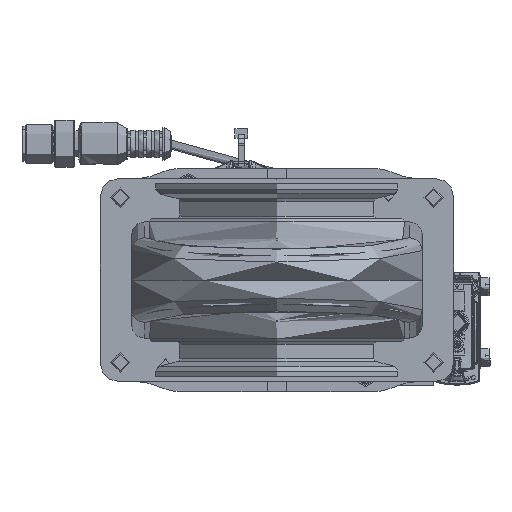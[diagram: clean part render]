
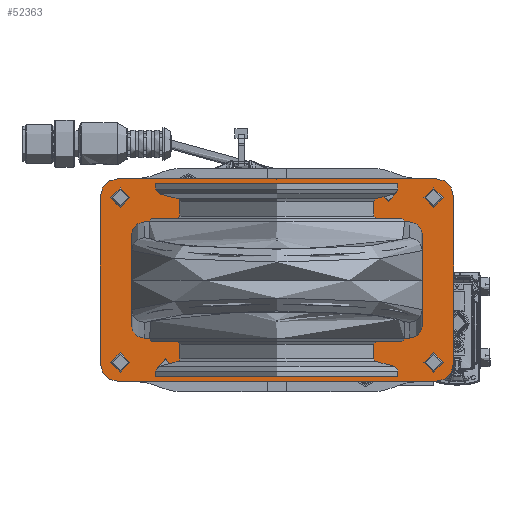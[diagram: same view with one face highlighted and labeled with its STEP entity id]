
A CAD part, front view. The second image highlights one B-rep face of the part: STEP entity #52363.
In plain terms, the highlighted planar face has unit normal (0, -1, 0).
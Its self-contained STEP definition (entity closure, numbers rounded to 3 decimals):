
#9810=LINE('',#137928,#15293);
#9823=LINE('',#137954,#15306);
#9843=LINE('',#138014,#15326);
#9848=LINE('',#138026,#15331);
#9852=LINE('',#138035,#15335);
#9857=LINE('',#138053,#15340);
#9860=LINE('',#138065,#15343);
#9865=LINE('',#138073,#15348);
#15293=VECTOR('',#115225,1.);
#15306=VECTOR('',#115240,1.);
#15326=VECTOR('',#115286,1.);
#15331=VECTOR('',#115297,1.);
#15335=VECTOR('',#115307,1.);
#15340=VECTOR('',#115328,1.);
#15343=VECTOR('',#115343,1.);
#15348=VECTOR('',#115350,1.);
#20820=CIRCLE('',#106985,2.);
#20821=CIRCLE('',#106988,2.);
#20822=CIRCLE('',#106991,2.);
#20823=CIRCLE('',#106994,2.);
#20824=CIRCLE('',#106996,6.);
#20826=CIRCLE('',#106999,6.);
#20827=CIRCLE('',#107002,6.);
#20828=CIRCLE('',#107004,6.);
#20836=CIRCLE('',#107016,2.5);
#20837=CIRCLE('',#107017,2.5);
#20838=CIRCLE('',#107018,2.5);
#20839=CIRCLE('',#107019,2.5);
#20840=CIRCLE('',#107020,2.6);
#20841=CIRCLE('',#107021,2.6);
#46126=PLANE('',#107022);
#52363=ADVANCED_FACE('',(#58282,#58283,#58284,#58285,#58286,#58287,#58288,
#58289),#46126,.T.);
#58282=FACE_BOUND('',#59423,.T.);
#58283=FACE_BOUND('',#59424,.T.);
#58284=FACE_BOUND('',#59425,.T.);
#58285=FACE_BOUND('',#59426,.T.);
#58286=FACE_BOUND('',#59427,.T.);
#58287=FACE_BOUND('',#59428,.T.);
#58288=FACE_BOUND('',#59429,.T.);
#58289=FACE_BOUND('',#59430,.T.);
#59423=EDGE_LOOP('',(#65546));
#59424=EDGE_LOOP('',(#65547));
#59425=EDGE_LOOP('',(#65548));
#59426=EDGE_LOOP('',(#65549));
#59427=EDGE_LOOP('',(#65550));
#59428=EDGE_LOOP('',(#65551));
#59429=EDGE_LOOP('',(#65552,#65553,#65554,#65555,#65556,#65557,#65558,#65559));
#59430=EDGE_LOOP('',(#65560,#65561,#65562,#65563,#65564,#65565,#65566,#65567));
#65546=ORIENTED_EDGE('',*,*,#95539,.F.);
#65547=ORIENTED_EDGE('',*,*,#95540,.F.);
#65548=ORIENTED_EDGE('',*,*,#95541,.F.);
#65549=ORIENTED_EDGE('',*,*,#95542,.F.);
#65550=ORIENTED_EDGE('',*,*,#95543,.F.);
#65551=ORIENTED_EDGE('',*,*,#95544,.F.);
#65552=ORIENTED_EDGE('',*,*,#95433,.T.);
#65553=ORIENTED_EDGE('',*,*,#95376,.T.);
#65554=ORIENTED_EDGE('',*,*,#95436,.T.);
#65555=ORIENTED_EDGE('',*,*,#95438,.T.);
#65556=ORIENTED_EDGE('',*,*,#95440,.T.);
#65557=ORIENTED_EDGE('',*,*,#95389,.T.);
#65558=ORIENTED_EDGE('',*,*,#95441,.T.);
#65559=ORIENTED_EDGE('',*,*,#95444,.T.);
#65560=ORIENTED_EDGE('',*,*,#95415,.T.);
#65561=ORIENTED_EDGE('',*,*,#95418,.T.);
#65562=ORIENTED_EDGE('',*,*,#95420,.T.);
#65563=ORIENTED_EDGE('',*,*,#95424,.T.);
#65564=ORIENTED_EDGE('',*,*,#95427,.T.);
#65565=ORIENTED_EDGE('',*,*,#95429,.T.);
#65566=ORIENTED_EDGE('',*,*,#95431,.T.);
#65567=ORIENTED_EDGE('',*,*,#95449,.T.);
#87873=VERTEX_POINT('',#137927);
#87874=VERTEX_POINT('',#137929);
#87885=VERTEX_POINT('',#137953);
#87886=VERTEX_POINT('',#137955);
#87911=VERTEX_POINT('',#138009);
#87912=VERTEX_POINT('',#138010);
#87913=VERTEX_POINT('',#138015);
#87914=VERTEX_POINT('',#138019);
#87916=VERTEX_POINT('',#138025);
#87918=VERTEX_POINT('',#138032);
#87919=VERTEX_POINT('',#138036);
#87920=VERTEX_POINT('',#138040);
#87921=VERTEX_POINT('',#138044);
#87923=VERTEX_POINT('',#138050);
#87924=VERTEX_POINT('',#138054);
#87925=VERTEX_POINT('',#138060);
#88017=VERTEX_POINT('',#138524);
#88018=VERTEX_POINT('',#138526);
#88019=VERTEX_POINT('',#138528);
#88020=VERTEX_POINT('',#138530);
#88021=VERTEX_POINT('',#138532);
#88022=VERTEX_POINT('',#138534);
#95376=EDGE_CURVE('',#87874,#87873,#9810,.T.);
#95389=EDGE_CURVE('',#87886,#87885,#9823,.T.);
#95415=EDGE_CURVE('',#87911,#87912,#20820,.T.);
#95418=EDGE_CURVE('',#87912,#87913,#9843,.T.);
#95420=EDGE_CURVE('',#87913,#87914,#20821,.T.);
#95424=EDGE_CURVE('',#87914,#87916,#9848,.T.);
#95427=EDGE_CURVE('',#87916,#87918,#20822,.T.);
#95429=EDGE_CURVE('',#87918,#87919,#9852,.T.);
#95431=EDGE_CURVE('',#87919,#87920,#20823,.T.);
#95433=EDGE_CURVE('',#87921,#87874,#20824,.T.);
#95436=EDGE_CURVE('',#87873,#87923,#20826,.T.);
#95438=EDGE_CURVE('',#87923,#87924,#9857,.T.);
#95440=EDGE_CURVE('',#87924,#87886,#20827,.T.);
#95441=EDGE_CURVE('',#87885,#87925,#20828,.T.);
#95444=EDGE_CURVE('',#87925,#87921,#9860,.T.);
#95449=EDGE_CURVE('',#87920,#87911,#9865,.T.);
#95539=EDGE_CURVE('',#88017,#88017,#20836,.T.);
#95540=EDGE_CURVE('',#88018,#88018,#20837,.T.);
#95541=EDGE_CURVE('',#88019,#88019,#20838,.T.);
#95542=EDGE_CURVE('',#88020,#88020,#20839,.T.);
#95543=EDGE_CURVE('',#88021,#88021,#20840,.T.);
#95544=EDGE_CURVE('',#88022,#88022,#20841,.T.);
#106985=AXIS2_PLACEMENT_3D('',#138008,#115280,#115281);
#106988=AXIS2_PLACEMENT_3D('',#138018,#115290,#115291);
#106991=AXIS2_PLACEMENT_3D('',#138031,#115302,#115303);
#106994=AXIS2_PLACEMENT_3D('',#138039,#115311,#115312);
#106996=AXIS2_PLACEMENT_3D('',#138043,#115316,#115317);
#106999=AXIS2_PLACEMENT_3D('',#138049,#115323,#115324);
#107002=AXIS2_PLACEMENT_3D('',#138057,#115332,#115333);
#107004=AXIS2_PLACEMENT_3D('',#138059,#115336,#115337);
#107016=AXIS2_PLACEMENT_3D('',#138523,#115372,#115373);
#107017=AXIS2_PLACEMENT_3D('',#138525,#115374,#115375);
#107018=AXIS2_PLACEMENT_3D('',#138527,#115376,#115377);
#107019=AXIS2_PLACEMENT_3D('',#138529,#115378,#115379);
#107020=AXIS2_PLACEMENT_3D('',#138531,#115380,#115381);
#107021=AXIS2_PLACEMENT_3D('',#138533,#115382,#115383);
#107022=AXIS2_PLACEMENT_3D('',#138535,#115384,#115385);
#115225=DIRECTION('',(-1.,0.,0.));
#115240=DIRECTION('',(1.,0.,0.));
#115280=DIRECTION('',(0.,1.,0.));
#115281=DIRECTION('',(-1.,0.,0.));
#115286=DIRECTION('',(0.,0.,1.));
#115290=DIRECTION('',(0.,1.,0.));
#115291=DIRECTION('',(-1.,0.,0.));
#115297=DIRECTION('',(1.,0.,0.));
#115302=DIRECTION('',(0.,1.,0.));
#115303=DIRECTION('',(1.,0.,0.));
#115307=DIRECTION('',(0.,0.,-1.));
#115311=DIRECTION('',(0.,1.,0.));
#115312=DIRECTION('',(1.,0.,0.));
#115316=DIRECTION('',(0.,-1.,0.));
#115317=DIRECTION('',(1.,0.,0.));
#115323=DIRECTION('',(0.,-1.,0.));
#115324=DIRECTION('',(-1.,0.,0.));
#115328=DIRECTION('',(0.,0.,-1.));
#115332=DIRECTION('',(0.,-1.,0.));
#115333=DIRECTION('',(-1.,0.,0.));
#115336=DIRECTION('',(0.,-1.,0.));
#115337=DIRECTION('',(1.,0.,0.));
#115343=DIRECTION('',(0.,0.,1.));
#115350=DIRECTION('',(-1.,0.,0.));
#115372=DIRECTION('',(0.,-1.,0.));
#115373=DIRECTION('',(0.,0.,-1.));
#115374=DIRECTION('',(0.,-1.,0.));
#115375=DIRECTION('',(0.,0.,-1.));
#115376=DIRECTION('',(0.,-1.,0.));
#115377=DIRECTION('',(0.,0.,-1.));
#115378=DIRECTION('',(0.,-1.,0.));
#115379=DIRECTION('',(0.,0.,-1.));
#115380=DIRECTION('',(0.,-1.,0.));
#115381=DIRECTION('',(0.,0.,-1.));
#115382=DIRECTION('',(0.,-1.,0.));
#115383=DIRECTION('',(0.,0.,-1.));
#115384=DIRECTION('',(0.,-1.,0.));
#115385=DIRECTION('',(-1.,0.,0.));
#137927=CARTESIAN_POINT('',(-48.75,125.,31.5));
#137928=CARTESIAN_POINT('',(48.75,125.,31.5));
#137929=CARTESIAN_POINT('',(48.75,125.,31.5));
#137953=CARTESIAN_POINT('',(48.75,125.,-31.5));
#137954=CARTESIAN_POINT('',(-48.75,125.,-31.5));
#137955=CARTESIAN_POINT('',(-48.75,125.,-31.5));
#138008=CARTESIAN_POINT('',(-41.5,125.,-14.5));
#138009=CARTESIAN_POINT('',(-41.5,125.,-16.5));
#138010=CARTESIAN_POINT('',(-43.5,125.,-14.5));
#138014=CARTESIAN_POINT('',(-43.5,125.,-14.5));
#138015=CARTESIAN_POINT('',(-43.5,125.,14.5));
#138018=CARTESIAN_POINT('',(-41.5,125.,14.5));
#138019=CARTESIAN_POINT('',(-41.5,125.,16.5));
#138025=CARTESIAN_POINT('',(41.5,125.,16.5));
#138026=CARTESIAN_POINT('',(-41.5,125.,16.5));
#138031=CARTESIAN_POINT('',(41.5,125.,14.5));
#138032=CARTESIAN_POINT('',(43.5,125.,14.5));
#138035=CARTESIAN_POINT('',(43.5,125.,14.5));
#138036=CARTESIAN_POINT('',(43.5,125.,-14.5));
#138039=CARTESIAN_POINT('',(41.5,125.,-14.5));
#138040=CARTESIAN_POINT('',(41.5,125.,-16.5));
#138043=CARTESIAN_POINT('',(48.75,125.,25.5));
#138044=CARTESIAN_POINT('',(54.75,125.,25.5));
#138049=CARTESIAN_POINT('',(-48.75,125.,25.5));
#138050=CARTESIAN_POINT('',(-54.75,125.,25.5));
#138053=CARTESIAN_POINT('',(-54.75,125.,25.5));
#138054=CARTESIAN_POINT('',(-54.75,125.,-25.5));
#138057=CARTESIAN_POINT('',(-48.75,125.,-25.5));
#138059=CARTESIAN_POINT('',(48.75,125.,-25.5));
#138060=CARTESIAN_POINT('',(54.75,125.,-25.5));
#138065=CARTESIAN_POINT('',(54.75,125.,-25.5));
#138073=CARTESIAN_POINT('',(41.5,125.,-16.5));
#138523=CARTESIAN_POINT('',(48.5,125.,-25.5));
#138524=CARTESIAN_POINT('',(48.5,125.,-28.));
#138525=CARTESIAN_POINT('',(-48.5,125.,-25.5));
#138526=CARTESIAN_POINT('',(-48.5,125.,-28.));
#138527=CARTESIAN_POINT('',(-48.5,125.,25.5));
#138528=CARTESIAN_POINT('',(-48.5,125.,23.));
#138529=CARTESIAN_POINT('',(48.5,125.,25.5));
#138530=CARTESIAN_POINT('',(48.5,125.,23.));
#138531=CARTESIAN_POINT('',(-34.5,125.,-27.));
#138532=CARTESIAN_POINT('',(-34.5,125.,-29.6));
#138533=CARTESIAN_POINT('',(34.5,125.,27.));
#138534=CARTESIAN_POINT('',(34.5,125.,24.4));
#138535=CARTESIAN_POINT('',(48.75,125.,25.5));
